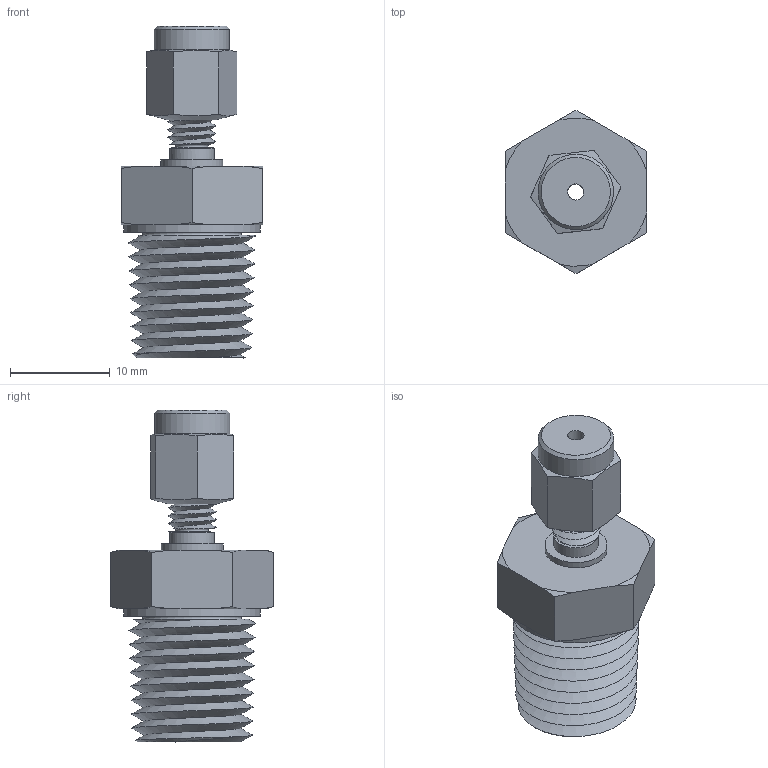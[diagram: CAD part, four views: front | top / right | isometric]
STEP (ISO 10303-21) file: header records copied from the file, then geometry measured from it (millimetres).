
FILE_DESCRIPTION(/* description */ (''),/* implementation_level */ '2;1');
FILE_NAME(/* name */ 'C:\Users\JN\Documents\CAD Drawings\The Sensor Connection\3D\CF\CF-0062-NPT\CF-0062-14-NPT.stp',/* time_stamp */ '2017-11-14T12:10:32-05:00',/* author */ ('JN'),/* organization */ (''),/* preprocessor_version */ 'ST-DEVELOPER v15.6',/* originating_system */ 'Autodesk Inventor 2015',/* authorisation */ '');
FILE_SCHEMA (('AUTOMOTIVE_DESIGN { 1 0 10303 214 3 1 1 }'));
Length unit declared in the file: inch
Products named in the file (4): CF-0062-NPT Bottom Ferrule; CF-0062-NPT Cap; CF-0062-14-NPT Threaded Body; CF-0062-14-NPT
Assembly tree (3 placements, depth 2):
  CF-0062-14-NPT
    CF-0062-NPT Bottom Ferrule
    CF-0062-NPT Cap
    CF-0062-14-NPT Threaded Body
Bounding box: 14.17 x 16.37 x 33.24 mm (x, y, z)
Volume: 2792.1 mm3; surface area: 2500.9 mm2
Topology: 3 solids, 3 shells, 75 faces, 198 edges, 132 vertices
Faces by surface type: plane 30, cone 20, bspline 11, cylinder 10, torus 4
Full cylindrical faces by diameter (mm): 1.626 x3, 3.493 x1, 3.556 x1, 4.47 x1, 5.436 x1, 6.223 x1, 7.556 x1, 13.716 x1
Entity records: 6362 total; most frequent: CARTESIAN_POINT 4717, ORIENTED_EDGE 338, DIRECTION 272, EDGE_CURVE 169, VERTEX_POINT 122, AXIS2_PLACEMENT_3D 119, EDGE_LOOP 105, FACE_OUTER_BOUND 75
